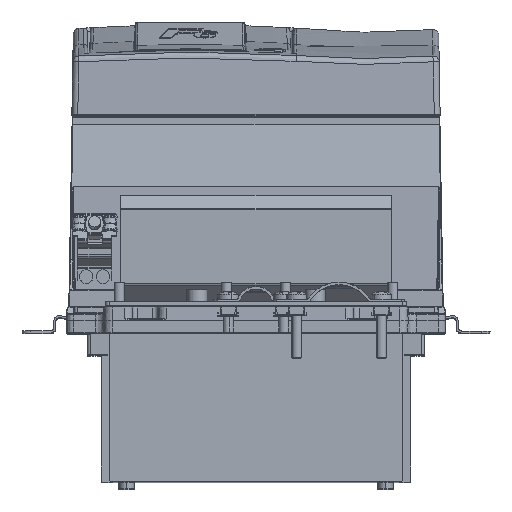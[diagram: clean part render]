
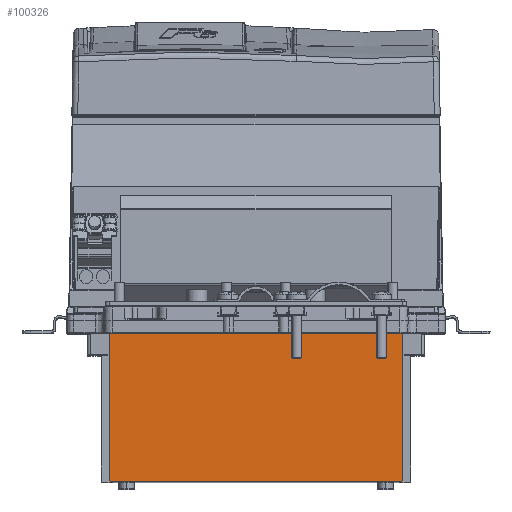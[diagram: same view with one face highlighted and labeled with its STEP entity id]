
A CAD part, top view. The second image highlights one B-rep face of the part: STEP entity #100326.
In plain terms, the highlighted planar face has unit normal (0, 0, 1).
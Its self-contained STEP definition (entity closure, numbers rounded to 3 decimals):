
#1742 = CARTESIAN_POINT ( 'NONE',  ( -85., -73., 159. ) ) ;
#3936 = CARTESIAN_POINT ( 'NONE',  ( -85., 13., 159. ) ) ;
#4236 = AXIS2_PLACEMENT_3D ( 'NONE', #61078, #13597, #100278 ) ;
#4499 = CARTESIAN_POINT ( 'NONE',  ( 89., -73., 159. ) ) ;
#5462 = DIRECTION ( 'NONE',  ( 1., 0., 0. ) ) ;
#9897 = ORIENTED_EDGE ( 'NONE', *, *, #102172, .T. ) ;
#13049 = VECTOR ( 'NONE', #24301, 1000. ) ;
#13597 = DIRECTION ( 'NONE',  ( 0., 0., 1. ) ) ;
#13648 = CARTESIAN_POINT ( 'NONE',  ( 89., 13., 159. ) ) ;
#15306 = EDGE_CURVE ( 'NONE', #32112, #75269, #118263, .T. ) ;
#17033 = VERTEX_POINT ( 'NONE', #1742 ) ;
#17500 = CARTESIAN_POINT ( 'NONE',  ( 87., -73., 159. ) ) ;
#18591 = CIRCLE ( 'NONE', #4236, 2. ) ;
#24301 = DIRECTION ( 'NONE',  ( 0., 1., 0. ) ) ;
#25202 = VECTOR ( 'NONE', #92749, 1000. ) ;
#25342 = PLANE ( 'NONE',  #40938 ) ;
#32112 = VERTEX_POINT ( 'NONE', #104728 ) ;
#32742 = ORIENTED_EDGE ( 'NONE', *, *, #106359, .T. ) ;
#38068 = VERTEX_POINT ( 'NONE', #3936 ) ;
#40886 = VECTOR ( 'NONE', #5462, 1000. ) ;
#40938 = AXIS2_PLACEMENT_3D ( 'NONE', #103637, #44561, #55426 ) ;
#43917 = ORIENTED_EDGE ( 'NONE', *, *, #103341, .T. ) ;
#44561 = DIRECTION ( 'NONE',  ( 0., 0., 1. ) ) ;
#51481 = EDGE_LOOP ( 'NONE', ( #32742, #122037, #9897, #60115, #62152, #43917 ) ) ;
#52740 = DIRECTION ( 'NONE',  ( -1., 0., 0. ) ) ;
#53001 = VERTEX_POINT ( 'NONE', #89505 ) ;
#55426 = DIRECTION ( 'NONE',  ( -1., 0., 0. ) ) ;
#60115 = ORIENTED_EDGE ( 'NONE', *, *, #15306, .T. ) ;
#61078 = CARTESIAN_POINT ( 'NONE',  ( -83., -73., 159. ) ) ;
#62152 = ORIENTED_EDGE ( 'NONE', *, *, #116236, .T. ) ;
#74041 = LINE ( 'NONE', #93956, #40886 ) ;
#74776 = EDGE_CURVE ( 'NONE', #17033, #90612, #18591, .T. ) ;
#75201 = DIRECTION ( 'NONE',  ( 0., 0., 1. ) ) ;
#75269 = VERTEX_POINT ( 'NONE', #4499 ) ;
#76469 = DIRECTION ( 'NONE',  ( 1., 0., 0. ) ) ;
#80765 = LINE ( 'NONE', #111000, #13049 ) ;
#89505 = CARTESIAN_POINT ( 'NONE',  ( 89., 13., 159. ) ) ;
#90612 = VERTEX_POINT ( 'NONE', #103552 ) ;
#92749 = DIRECTION ( 'NONE',  ( 0., -1., 0. ) ) ;
#93956 = CARTESIAN_POINT ( 'NONE',  ( -83., -75., 159. ) ) ;
#96423 = VECTOR ( 'NONE', #52740, 1000. ) ;
#100278 = DIRECTION ( 'NONE',  ( 1., 0., 0. ) ) ;
#100326 = ADVANCED_FACE ( 'NONE', ( #106180 ), #25342, .T. ) ;
#102172 = EDGE_CURVE ( 'NONE', #90612, #32112, #74041, .T. ) ;
#102380 = LINE ( 'NONE', #103024, #25202 ) ;
#103024 = CARTESIAN_POINT ( 'NONE',  ( -85., -73., 159. ) ) ;
#103341 = EDGE_CURVE ( 'NONE', #53001, #38068, #111233, .T. ) ;
#103552 = CARTESIAN_POINT ( 'NONE',  ( -83., -75., 159. ) ) ;
#103637 = CARTESIAN_POINT ( 'NONE',  ( 87., 10., 159. ) ) ;
#104728 = CARTESIAN_POINT ( 'NONE',  ( 87., -75., 159. ) ) ;
#106180 = FACE_OUTER_BOUND ( 'NONE', #51481, .T. ) ;
#106359 = EDGE_CURVE ( 'NONE', #38068, #17033, #102380, .T. ) ;
#111000 = CARTESIAN_POINT ( 'NONE',  ( 89., -73., 159. ) ) ;
#111233 = LINE ( 'NONE', #13648, #96423 ) ;
#116236 = EDGE_CURVE ( 'NONE', #75269, #53001, #80765, .T. ) ;
#116242 = AXIS2_PLACEMENT_3D ( 'NONE', #17500, #75201, #76469 ) ;
#118263 = CIRCLE ( 'NONE', #116242, 2. ) ;
#122037 = ORIENTED_EDGE ( 'NONE', *, *, #74776, .T. ) ;
